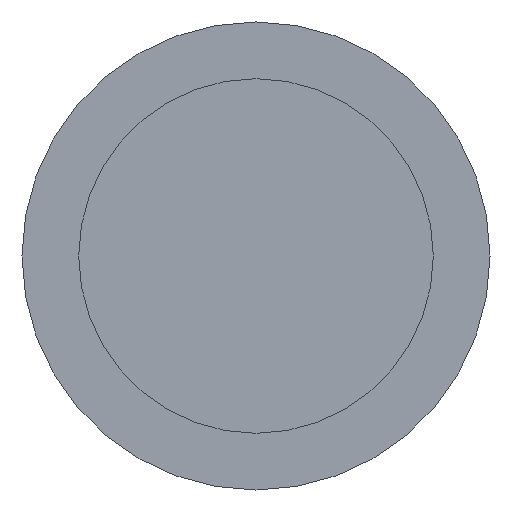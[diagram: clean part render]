
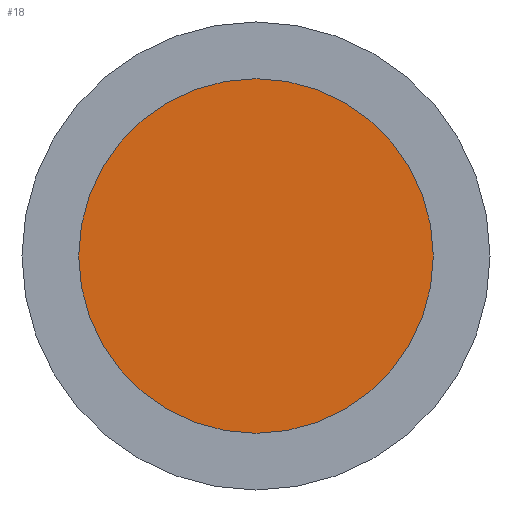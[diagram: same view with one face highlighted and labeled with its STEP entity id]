
A CAD part, left-side view. The second image highlights one B-rep face of the part: STEP entity #18.
In plain terms, the highlighted planar face has unit normal (-1, 0, 0).
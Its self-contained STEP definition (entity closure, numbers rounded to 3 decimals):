
#5 = DIRECTION ( 'NONE',  ( 1., 0., 0. ) ) ;
#15 = DIRECTION ( 'NONE',  ( -1., 0., 0. ) ) ;
#18 = ADVANCED_FACE ( 'NONE', ( #137 ), #122, .F. ) ;
#23 = CARTESIAN_POINT ( 'NONE',  ( 0., 0., 0. ) ) ;
#35 = ORIENTED_EDGE ( 'NONE', *, *, #220, .T. ) ;
#40 = EDGE_LOOP ( 'NONE', ( #35 ) ) ;
#63 = CARTESIAN_POINT ( 'NONE',  ( 0., 0., 0. ) ) ;
#66 = DIRECTION ( 'NONE',  ( 0., 0., 1. ) ) ;
#71 = CARTESIAN_POINT ( 'NONE',  ( 0., 0., 10. ) ) ;
#94 = VERTEX_POINT ( 'NONE', #71 ) ;
#107 = AXIS2_PLACEMENT_3D ( 'NONE', #23, #5, #226 ) ;
#122 = PLANE ( 'NONE',  #107 ) ;
#137 = FACE_OUTER_BOUND ( 'NONE', #40, .T. ) ;
#167 = AXIS2_PLACEMENT_3D ( 'NONE', #63, #15, #66 ) ;
#215 = CIRCLE ( 'NONE', #167, 10. ) ;
#220 = EDGE_CURVE ( 'NONE', #94, #94, #215, .T. ) ;
#226 = DIRECTION ( 'NONE',  ( 0., 0., -1. ) ) ;
